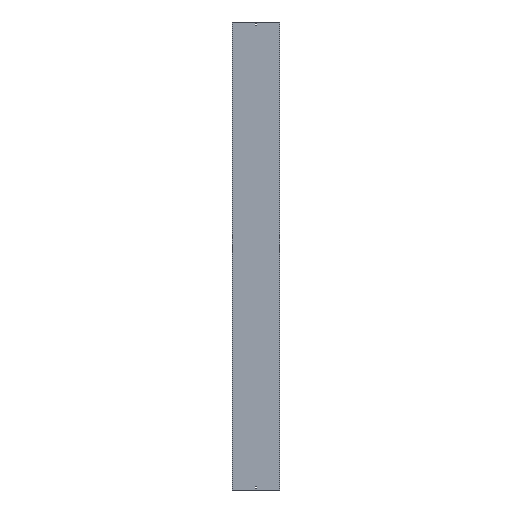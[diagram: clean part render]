
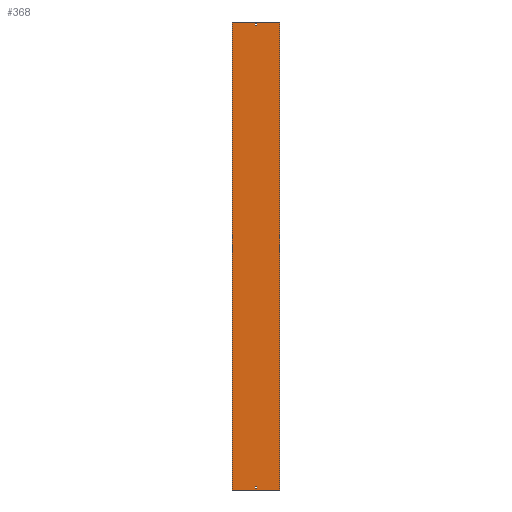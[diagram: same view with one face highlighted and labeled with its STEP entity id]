
A CAD part, front view. The second image highlights one B-rep face of the part: STEP entity #368.
In plain terms, the highlighted planar face has unit normal (0, -1, 0).
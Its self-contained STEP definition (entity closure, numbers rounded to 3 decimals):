
#15 = CARTESIAN_POINT ( 'NONE',  ( 3.25, 0., 1479. ) ) ;
#43 = VERTEX_POINT ( 'NONE', #1335 ) ;
#72 = EDGE_CURVE ( 'NONE', #1270, #153, #857, .T. ) ;
#98 = LINE ( 'NONE', #1382, #578 ) ;
#134 = VECTOR ( 'NONE', #1484, 1000. ) ;
#138 = VECTOR ( 'NONE', #1186, 1000. ) ;
#144 = EDGE_CURVE ( 'NONE', #1346, #911, #964, .T. ) ;
#153 = VERTEX_POINT ( 'NONE', #322 ) ;
#167 = FACE_BOUND ( 'NONE', #1184, .T. ) ;
#184 = ORIENTED_EDGE ( 'NONE', *, *, #746, .F. ) ;
#226 = CARTESIAN_POINT ( 'NONE',  ( -3.25, 0., -1488. ) ) ;
#228 = VERTEX_POINT ( 'NONE', #514 ) ;
#235 = DIRECTION ( 'NONE',  ( 0., 0., -1. ) ) ;
#261 = CARTESIAN_POINT ( 'NONE',  ( 3.25, 0., 1488. ) ) ;
#280 = ORIENTED_EDGE ( 'NONE', *, *, #1449, .F. ) ;
#303 = VECTOR ( 'NONE', #597, 1000. ) ;
#322 = CARTESIAN_POINT ( 'NONE',  ( -3.25, 0., -1488. ) ) ;
#358 = CARTESIAN_POINT ( 'NONE',  ( 152., 0., 1500. ) ) ;
#368 = ADVANCED_FACE ( 'NONE', ( #1304, #167, #686 ), #1323, .F. ) ;
#376 = VECTOR ( 'NONE', #235, 1000. ) ;
#449 = ORIENTED_EDGE ( 'NONE', *, *, #611, .F. ) ;
#466 = DIRECTION ( 'NONE',  ( -1., 0., 0. ) ) ;
#473 = CARTESIAN_POINT ( 'NONE',  ( -3.25, 0., 1488. ) ) ;
#485 = LINE ( 'NONE', #1019, #651 ) ;
#514 = CARTESIAN_POINT ( 'NONE',  ( 152., 0., 1500. ) ) ;
#526 = LINE ( 'NONE', #1559, #1437 ) ;
#541 = DIRECTION ( 'NONE',  ( 0., 1., 0. ) ) ;
#543 = AXIS2_PLACEMENT_3D ( 'NONE', #1587, #541, #1173 ) ;
#556 = VERTEX_POINT ( 'NONE', #856 ) ;
#569 = VERTEX_POINT ( 'NONE', #1332 ) ;
#578 = VECTOR ( 'NONE', #1626, 1000. ) ;
#597 = DIRECTION ( 'NONE',  ( 1., 0., 0. ) ) ;
#611 = EDGE_CURVE ( 'NONE', #932, #899, #945, .T. ) ;
#651 = VECTOR ( 'NONE', #1552, 1000. ) ;
#686 = FACE_BOUND ( 'NONE', #1488, .T. ) ;
#709 = CARTESIAN_POINT ( 'NONE',  ( -152., 0., -1500. ) ) ;
#746 = EDGE_CURVE ( 'NONE', #228, #758, #1340, .T. ) ;
#758 = VERTEX_POINT ( 'NONE', #861 ) ;
#765 = ORIENTED_EDGE ( 'NONE', *, *, #72, .T. ) ;
#766 = EDGE_CURVE ( 'NONE', #43, #1270, #1121, .T. ) ;
#770 = CARTESIAN_POINT ( 'NONE',  ( -3.25, 0., -1479. ) ) ;
#778 = DIRECTION ( 'NONE',  ( 1., 0., 0. ) ) ;
#785 = VECTOR ( 'NONE', #466, 1000. ) ;
#853 = ORIENTED_EDGE ( 'NONE', *, *, #917, .F. ) ;
#856 = CARTESIAN_POINT ( 'NONE',  ( -3.25, 0., -1479. ) ) ;
#857 = LINE ( 'NONE', #226, #785 ) ;
#861 = CARTESIAN_POINT ( 'NONE',  ( 152., 0., -1500. ) ) ;
#863 = ORIENTED_EDGE ( 'NONE', *, *, #1282, .T. ) ;
#873 = EDGE_CURVE ( 'NONE', #153, #556, #485, .T. ) ;
#878 = DIRECTION ( 'NONE',  ( 0., 0., -1. ) ) ;
#896 = VECTOR ( 'NONE', #1016, 1000. ) ;
#899 = VERTEX_POINT ( 'NONE', #1167 ) ;
#911 = VERTEX_POINT ( 'NONE', #1441 ) ;
#915 = DIRECTION ( 'NONE',  ( 0., 0., -1. ) ) ;
#917 = EDGE_CURVE ( 'NONE', #569, #228, #1420, .T. ) ;
#922 = VECTOR ( 'NONE', #878, 1000. ) ;
#932 = VERTEX_POINT ( 'NONE', #15 ) ;
#934 = ORIENTED_EDGE ( 'NONE', *, *, #1161, .F. ) ;
#940 = EDGE_CURVE ( 'NONE', #569, #1149, #526, .T. ) ;
#945 = LINE ( 'NONE', #261, #1436 ) ;
#964 = LINE ( 'NONE', #473, #134 ) ;
#1016 = DIRECTION ( 'NONE',  ( 1., 0., 0. ) ) ;
#1019 = CARTESIAN_POINT ( 'NONE',  ( -3.25, 0., -1488. ) ) ;
#1046 = EDGE_LOOP ( 'NONE', ( #1384, #184, #853, #1555 ) ) ;
#1048 = CARTESIAN_POINT ( 'NONE',  ( -152., 0., -1500. ) ) ;
#1080 = ORIENTED_EDGE ( 'NONE', *, *, #766, .T. ) ;
#1121 = LINE ( 'NONE', #1138, #922 ) ;
#1138 = CARTESIAN_POINT ( 'NONE',  ( 3.25, 0., -1488. ) ) ;
#1149 = VERTEX_POINT ( 'NONE', #1048 ) ;
#1150 = CARTESIAN_POINT ( 'NONE',  ( -152., 0., 1500. ) ) ;
#1161 = EDGE_CURVE ( 'NONE', #911, #932, #1565, .T. ) ;
#1167 = CARTESIAN_POINT ( 'NONE',  ( 3.25, 0., 1488. ) ) ;
#1173 = DIRECTION ( 'NONE',  ( -1., 0., 0. ) ) ;
#1184 = EDGE_LOOP ( 'NONE', ( #934, #1370, #280, #449 ) ) ;
#1185 = CARTESIAN_POINT ( 'NONE',  ( -3.25, 0., 1488. ) ) ;
#1186 = DIRECTION ( 'NONE',  ( 1., 0., 0. ) ) ;
#1243 = ORIENTED_EDGE ( 'NONE', *, *, #873, .T. ) ;
#1270 = VERTEX_POINT ( 'NONE', #1283 ) ;
#1282 = EDGE_CURVE ( 'NONE', #556, #43, #1534, .T. ) ;
#1283 = CARTESIAN_POINT ( 'NONE',  ( 3.25, 0., -1488. ) ) ;
#1293 = VECTOR ( 'NONE', #778, 1000. ) ;
#1304 = FACE_OUTER_BOUND ( 'NONE', #1046, .T. ) ;
#1323 = PLANE ( 'NONE',  #543 ) ;
#1332 = CARTESIAN_POINT ( 'NONE',  ( -152., 0., 1500. ) ) ;
#1335 = CARTESIAN_POINT ( 'NONE',  ( 3.25, 0., -1479. ) ) ;
#1340 = LINE ( 'NONE', #358, #376 ) ;
#1342 = CARTESIAN_POINT ( 'NONE',  ( -3.25, 0., 1479. ) ) ;
#1346 = VERTEX_POINT ( 'NONE', #1185 ) ;
#1357 = LINE ( 'NONE', #709, #303 ) ;
#1370 = ORIENTED_EDGE ( 'NONE', *, *, #144, .F. ) ;
#1382 = CARTESIAN_POINT ( 'NONE',  ( -3.25, 0., 1488. ) ) ;
#1384 = ORIENTED_EDGE ( 'NONE', *, *, #1471, .T. ) ;
#1420 = LINE ( 'NONE', #1150, #1293 ) ;
#1436 = VECTOR ( 'NONE', #1593, 1000. ) ;
#1437 = VECTOR ( 'NONE', #915, 1000. ) ;
#1441 = CARTESIAN_POINT ( 'NONE',  ( -3.25, 0., 1479. ) ) ;
#1449 = EDGE_CURVE ( 'NONE', #899, #1346, #98, .T. ) ;
#1471 = EDGE_CURVE ( 'NONE', #1149, #758, #1357, .T. ) ;
#1484 = DIRECTION ( 'NONE',  ( 0., 0., -1. ) ) ;
#1488 = EDGE_LOOP ( 'NONE', ( #1243, #863, #1080, #765 ) ) ;
#1534 = LINE ( 'NONE', #770, #896 ) ;
#1552 = DIRECTION ( 'NONE',  ( 0., 0., 1. ) ) ;
#1555 = ORIENTED_EDGE ( 'NONE', *, *, #940, .T. ) ;
#1559 = CARTESIAN_POINT ( 'NONE',  ( -152., 0., 1500. ) ) ;
#1565 = LINE ( 'NONE', #1342, #138 ) ;
#1587 = CARTESIAN_POINT ( 'NONE',  ( -152., 0., 1500. ) ) ;
#1593 = DIRECTION ( 'NONE',  ( 0., 0., 1. ) ) ;
#1626 = DIRECTION ( 'NONE',  ( -1., 0., 0. ) ) ;
